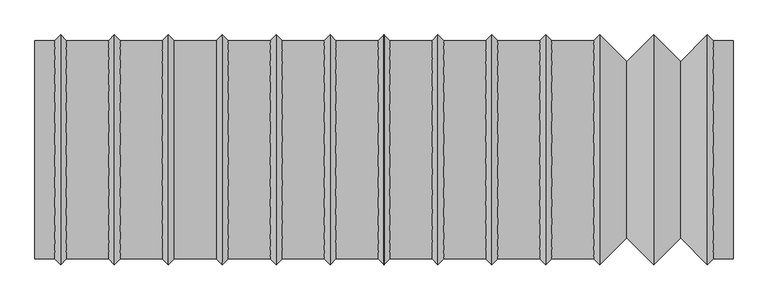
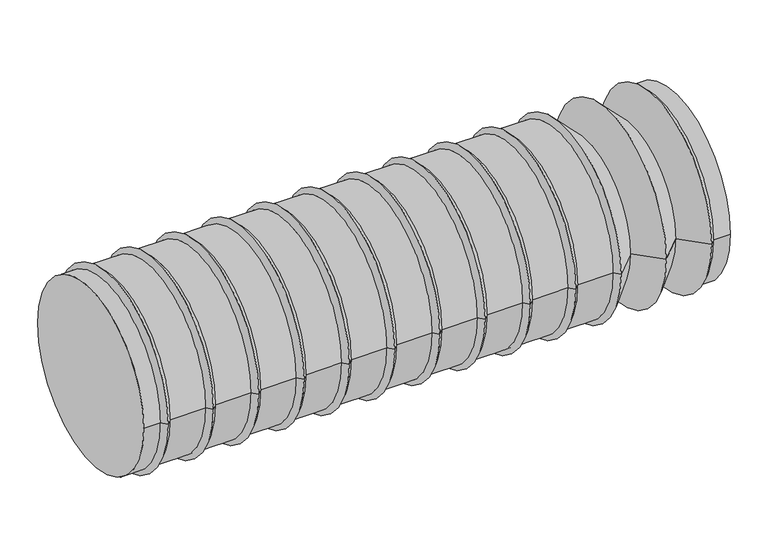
"""IFC4 building model written with IfcOpenShell, lengths in millimetres: proxy geometry, WIN.HB.2200x7090L-10."""

from ifc_helpers import new_model, si_unit, frame, origin, place, context, project, spatial, polyline, circle_curve, source, transform, mapped, element, save
from ifc_brep_helpers import plane_surface, cylinder_surface, revolved_surface, advanced_brep


def generic_models_1b11bcf1(model_context):
    return source(origin(), model_context, "Body", "AdvancedBrep", [
        advanced_brep(
        [(-6890.0, 1110.0, 0.0), (-7090.0, 1110.0, 0.0), (-7090.0, -1110.0, 0.0), (-6890.0, -1110.0, 0.0), (-6342.5, 1110.0, 0.0), (-6770.0, 1110.0, 0.0), (-6770.0, -1110.0, 0.0), (-6342.5, -1110.0, 0.0), (-4700.0, 1110.0, 0.0), (-5127.5, 1110.0, 0.0), (-5127.5, -1110.0, 0.0), (-4700.0, -1110.0, 0.0), (-4152.5, 1110.0, 0.0), (-4580.0, 1110.0, 0.0), (-4580.0, -1110.0, 0.0), (-4152.5, -1110.0, 0.0), (-3605.0, 1110.0, 0.0), (-4032.5, 1110.0, 0.0), (-4032.5, -1110.0, 0.0), (-3605.0, -1110.0, 0.0), (-2510.0, 1110.0, 0.0), (-2937.5, 1110.0, 0.0), (-2937.5, -1110.0, 0.0), (-2510.0, -1110.0, 0.0), (-1962.5, 1110.0, 0.0), (-2390.0, 1110.0, 0.0), (-2390.0, -1110.0, 0.0), (-1962.5, -1110.0, 0.0), (-1902.5, 1170.0, 0.0), (-1902.5, -1170.0, 0.0), (-2450.0, 1170.0, 0.0), (-2450.0, -1170.0, 0.0), (-3545.0, 1170.0, 0.0), (-3545.0, -1170.0, 0.0), (-4092.5, 1170.0, 0.0), (-4092.5, -1170.0, 0.0), (-4640.0, 1170.0, 0.0), (-4640.0, -1170.0, 0.0), (-5187.5, 1170.0, 0.0), (-5247.5, 1110.0, 0.0), (-5247.5, -1110.0, 0.0), (-5187.5, -1170.0, 0.0), (-6282.5, 1170.0, 0.0), (-6282.5, -1170.0, 0.0), (-6830.0, 1170.0, 0.0), (-6830.0, -1170.0, 0.0), (-5675.0, 1110.0, 0.0), (-5675.0, 1068.7059232, 299.9460781), (-5675.0, -1110.0, 0.0), (-6222.5, 1110.0, 0.0), (-6222.5, -1110.0, 0.0), (-3485.0, 1110.0, 0.0), (-3485.0, -1110.0, 0.0), (-1842.5, 1110.0, 0.0), (-1842.5, -1110.0, 0.0), (-2997.5, 1170.0, 0.0), (-2997.5, -1170.0, 0.0), (-3057.5, 1110.0, 0.0), (-3057.5, 1070.716645, 292.6873179), (-3057.5, -1110.0, 0.0), (-5735.0, 1170.0, 0.0), (-5735.0, 1134.7221867, 285.1412964), (-5735.0, -1170.0, 0.0), (-5795.0, 1110.0, 0.0), (-5795.0, -1110.0, 0.0), (-5795.0, 1078.3098609, 263.3397877), (-200.0, 1110.0, 0.0), (-260.0, 1170.0, 0.0), (-260.0, 1130.5161568, 301.3854993), (-260.0, -1170.0, 0.0), (-200.0, -1110.0, 0.0), (0.0, 1110.0, 0.0), (0.0, -1110.0, 0.0), (-1415.0, 1110.0, 0.0), (-1415.0, -1110.0, 0.0), (-1415.0, 1067.5746599, 303.9479323), (-1355.0, 1170.0, 0.0), (-1355.0, -1170.0, 0.0), (-1355.0, 1130.5161568, 301.3854993), (-1081.25, 896.25, 0.0), (-1081.25, -896.25, 0.0), (-533.75, 896.25, 0.0), (-807.5, 1170.0, 0.0), (-807.5, 1130.5161568, 301.3854993), (-807.5, -1170.0, 0.0), (-533.75, -896.25, 0.0), (-200.0, 1041.2881013, -384.472483), (-2997.5, 1112.7814782, -361.410268), (-2937.5, 1061.2762802, -325.2578316)],
        [
            (0, 1),
            (1, 2, circle_curve(frame((-7090.0, 0.0, 0.0), z_axis=(1.0, 0.0, 0.0), x_axis=(0.0, 1.0, 0.0)), 1110.0)),
            (2, 3),
            (3, 0, circle_curve(frame((-6890.0, 0.0, 0.0), z_axis=(-1.0, 0.0, 0.0), x_axis=(0.0, 1.0, 0.0)), 1110.0)),
            (4, 5),
            (5, 6, circle_curve(frame((-6770.0, 0.0, 0.0), z_axis=(1.0, 0.0, 0.0), x_axis=(0.0, 1.0, 0.0)), 1110.0)),
            (6, 7),
            (7, 4, circle_curve(frame((-6342.5, 0.0, 0.0), z_axis=(-1.0, 0.0, 0.0), x_axis=(0.0, 1.0, 0.0)), 1110.0)),
            (8, 9),
            (9, 10, circle_curve(frame((-5127.5, 0.0, 0.0), z_axis=(1.0, 0.0, 0.0), x_axis=(0.0, 1.0, 0.0)), 1110.0)),
            (10, 11),
            (11, 8, circle_curve(frame((-4700.0, 0.0, 0.0), z_axis=(-1.0, 0.0, 0.0), x_axis=(0.0, 1.0, 0.0)), 1110.0)),
            (12, 13),
            (13, 14, circle_curve(frame((-4580.0, 0.0, 0.0), z_axis=(1.0, 0.0, 0.0), x_axis=(0.0, 1.0, 0.0)), 1110.0)),
            (14, 15),
            (15, 12, circle_curve(frame((-4152.5, 0.0, 0.0), z_axis=(-1.0, 0.0, 0.0), x_axis=(0.0, 1.0, 0.0)), 1110.0)),
            (16, 17),
            (17, 18, circle_curve(frame((-4032.5, 0.0, 0.0), z_axis=(1.0, 0.0, 0.0), x_axis=(0.0, 1.0, 0.0)), 1110.0)),
            (18, 19),
            (19, 16, circle_curve(frame((-3605.0, 0.0, 0.0), z_axis=(-1.0, 0.0, 0.0), x_axis=(0.0, 1.0, 0.0)), 1110.0)),
            (20, 21),
            (21, 22, circle_curve(frame((-2937.5, 0.0, 0.0), z_axis=(1.0, 0.0, 0.0), x_axis=(0.0, 1.0, 0.0)), 1110.0)),
            (22, 23),
            (23, 20, circle_curve(frame((-2510.0, 0.0, 0.0), z_axis=(-1.0, 0.0, 0.0), x_axis=(0.0, 1.0, 0.0)), 1110.0)),
            (24, 25),
            (25, 26, circle_curve(frame((-2390.0, 0.0, 0.0), z_axis=(1.0, 0.0, 0.0), x_axis=(0.0, 1.0, 0.0)), 1110.0)),
            (26, 27),
            (27, 24, circle_curve(frame((-1962.5, 0.0, 0.0), z_axis=(-1.0, 0.0, 0.0), x_axis=(0.0, 1.0, 0.0)), 1110.0)),
            (28, 24),
            (27, 29),
            (29, 28, circle_curve(frame((-1902.5, 0.0, 0.0), z_axis=(-1.0, 0.0, 0.0), x_axis=(0.0, -1.0, 0.0)), 1170.0)),
            (30, 20),
            (23, 31),
            (31, 30, circle_curve(frame((-2450.0, 0.0, 0.0), z_axis=(-1.0, 0.0, 0.0), x_axis=(0.0, -1.0, 0.0)), 1170.0)),
            (32, 16),
            (19, 33),
            (33, 32, circle_curve(frame((-3545.0, 0.0, 0.0), z_axis=(-1.0, 0.0, 0.0), x_axis=(0.0, -1.0, 0.0)), 1170.0)),
            (34, 12),
            (15, 35),
            (35, 34, circle_curve(frame((-4092.5, 0.0, 0.0), z_axis=(-1.0, 0.0, 0.0), x_axis=(0.0, -1.0, 0.0)), 1170.0)),
            (36, 8),
            (11, 37),
            (37, 36, circle_curve(frame((-4640.0, 0.0, 0.0), z_axis=(-1.0, 0.0, 0.0), x_axis=(0.0, -1.0, 0.0)), 1170.0)),
            (38, 39),
            (39, 40, circle_curve(frame((-5247.5, 0.0, 0.0), z_axis=(1.0, 0.0, 0.0), x_axis=(0.0, -1.0, 0.0)), 1110.0)),
            (40, 41),
            (41, 38, circle_curve(frame((-5187.5, 0.0, 0.0), z_axis=(-1.0, 0.0, 0.0), x_axis=(0.0, -1.0, 0.0)), 1170.0)),
            (42, 4),
            (7, 43),
            (43, 42, circle_curve(frame((-6282.5, 0.0, 0.0), z_axis=(-1.0, 0.0, 0.0), x_axis=(0.0, -1.0, 0.0)), 1170.0)),
            (44, 0),
            (3, 45),
            (45, 44, circle_curve(frame((-6830.0, 0.0, 0.0), z_axis=(-1.0, 0.0, 0.0), x_axis=(0.0, -1.0, 0.0)), 1170.0)),
            (39, 46),
            (46, 47, circle_curve(frame((-5675.0, 0.0, 0.0), z_axis=(1.0, 0.0, 0.0), x_axis=(0.0, 1.0, 0.0)), 1110.0)),
            (47, 48, circle_curve(frame((-5675.0, 0.0, 0.0), z_axis=(1.0, 0.0, 0.0), x_axis=(0.0, 1.0, 0.0)), 1110.0)),
            (48, 40),
            (5, 44),
            (45, 6),
            (49, 42),
            (43, 50),
            (50, 49, circle_curve(frame((-6222.5, 0.0, 0.0), z_axis=(-1.0, 0.0, 0.0), x_axis=(0.0, -1.0, 0.0)), 1110.0)),
            (9, 38),
            (41, 10),
            (13, 36),
            (37, 14),
            (17, 34),
            (35, 18),
            (51, 32),
            (33, 52),
            (52, 51, circle_curve(frame((-3485.0, 0.0, 0.0), z_axis=(-1.0, 0.0, 0.0), x_axis=(0.0, -1.0, 0.0)), 1110.0)),
            (25, 30),
            (31, 26),
            (53, 28),
            (29, 54),
            (54, 53, circle_curve(frame((-1842.5, 0.0, 0.0), z_axis=(-1.0, 0.0, 0.0), x_axis=(0.0, -1.0, 0.0)), 1110.0)),
            (21, 55),
            (55, 56, circle_curve(frame((-2997.5, 0.0, 0.0), z_axis=(1.0, 0.0, 0.0), x_axis=(0.0, -1.0, 0.0)), 1170.0)),
            (56, 22),
            (55, 57),
            (57, 58, circle_curve(frame((-3057.5, 0.0, 0.0), z_axis=(1.0, 0.0, 0.0), x_axis=(0.0, -1.0, 0.0)), 1110.0)),
            (58, 59, circle_curve(frame((-3057.5, 0.0, 0.0), z_axis=(1.0, 0.0, 0.0), x_axis=(0.0, -1.0, 0.0)), 1110.0)),
            (59, 56),
            (57, 51),
            (52, 59),
            (46, 60),
            (60, 61, circle_curve(frame((-5735.0, 0.0, 0.0), z_axis=(1.0, 0.0, 0.0), x_axis=(0.0, -1.0, 0.0)), 1170.0)),
            (61, 62, circle_curve(frame((-5735.0, 0.0, 0.0), z_axis=(1.0, 0.0, 0.0), x_axis=(0.0, -1.0, 0.0)), 1170.0)),
            (62, 48),
            (63, 49),
            (50, 64),
            (64, 65, circle_curve(frame((-5795.0, 0.0, 0.0), z_axis=(-1.0, 0.0, 0.0), x_axis=(0.0, 1.0, 0.0)), 1110.0)),
            (65, 63, circle_curve(frame((-5795.0, 0.0, 0.0), z_axis=(-1.0, 0.0, 0.0), x_axis=(0.0, 1.0, 0.0)), 1110.0)),
            (60, 63),
            (64, 62),
            (66, 67),
            (67, 68, circle_curve(frame((-260.0, 0.0, 0.0), z_axis=(1.0, 0.0, 0.0), x_axis=(0.0, -1.0, 0.0)), 1170.0)),
            (68, 69, circle_curve(frame((-260.0, 0.0, 0.0), z_axis=(1.0, 0.0, 0.0), x_axis=(0.0, -1.0, 0.0)), 1170.0)),
            (69, 70),
            (70, 66, circle_curve(frame((-200.0, 0.0, 0.0), z_axis=(-1.0, 0.0, 0.0), x_axis=(0.0, -1.0, 0.0)), 1110.0)),
            (71, 66),
            (70, 72),
            (72, 71, circle_curve(frame((0.0, 0.0, 0.0), z_axis=(-1.0, 0.0, 0.0), x_axis=(0.0, 1.0, 0.0)), 1110.0)),
            (73, 53),
            (54, 74),
            (74, 75, circle_curve(frame((-1415.0, 0.0, 0.0), z_axis=(-1.0, 0.0, 0.0), x_axis=(0.0, 1.0, 0.0)), 1110.0)),
            (75, 73, circle_curve(frame((-1415.0, 0.0, 0.0), z_axis=(-1.0, 0.0, 0.0), x_axis=(0.0, 1.0, 0.0)), 1110.0)),
            (76, 73),
            (74, 77),
            (77, 78, circle_curve(frame((-1355.0, 0.0, 0.0), z_axis=(-1.0, 0.0, 0.0), x_axis=(0.0, -1.0, 0.0)), 1170.0)),
            (78, 76, circle_curve(frame((-1355.0, 0.0, 0.0), z_axis=(-1.0, 0.0, 0.0), x_axis=(0.0, -1.0, 0.0)), 1170.0)),
            (79, 76),
            (77, 80),
            (80, 79, circle_curve(frame((-1081.25, 0.0, 0.0), z_axis=(-1.0, 0.0, 0.0), x_axis=(0.0, -1.0, 0.0)), 896.25)),
            (81, 82),
            (82, 83, circle_curve(frame((-807.5, 0.0, 0.0), z_axis=(1.0, 0.0, 0.0), x_axis=(0.0, -1.0, 0.0)), 1170.0)),
            (83, 84, circle_curve(frame((-807.5, 0.0, 0.0), z_axis=(1.0, 0.0, 0.0), x_axis=(0.0, -1.0, 0.0)), 1170.0)),
            (84, 85),
            (85, 81, circle_curve(frame((-533.75, 0.0, 0.0), z_axis=(-1.0, 0.0, 0.0), x_axis=(0.0, -1.0, 0.0)), 896.25)),
            (82, 79),
            (80, 84),
            (67, 81),
            (85, 69),
            (67, 69, circle_curve(frame((-260.0, 0.0, 0.0), z_axis=(-1.0, 0.0, 0.0), x_axis=(0.0, 1.0, 0.0)), 1170.0)),
            (85, 81, circle_curve(frame((-533.75, 0.0, 0.0), z_axis=(1.0, 0.0, 0.0), x_axis=(0.0, 1.0, 0.0)), 896.25)),
            (82, 84, circle_curve(frame((-807.5, 0.0, 0.0), z_axis=(-1.0, 0.0, 0.0), x_axis=(0.0, 1.0, 0.0)), 1170.0)),
            (80, 79, circle_curve(frame((-1081.25, 0.0, 0.0), z_axis=(1.0, 0.0, 0.0), x_axis=(0.0, 1.0, 0.0)), 896.25)),
            (72, 71, circle_curve(frame((0.0, 0.0, 0.0), z_axis=(1.0, 0.0, 0.0), x_axis=(0.0, 1.0, 0.0)), 1110.0)),
            (1, 2, circle_curve(frame((-7090.0, 0.0, 0.0), z_axis=(-1.0, 0.0, 0.0), x_axis=(0.0, 1.0, 0.0)), 1110.0)),
            (77, 76, circle_curve(frame((-1355.0, 0.0, 0.0), z_axis=(1.0, 0.0, 0.0), x_axis=(0.0, 1.0, 0.0)), 1170.0)),
            (74, 73, circle_curve(frame((-1415.0, 0.0, 0.0), z_axis=(1.0, 0.0, 0.0), x_axis=(0.0, 1.0, 0.0)), 1110.0)),
            (54, 53, circle_curve(frame((-1842.5, 0.0, 0.0), z_axis=(1.0, 0.0, 0.0), x_axis=(0.0, 1.0, 0.0)), 1110.0)),
            (70, 86, circle_curve(frame((-200.0, 0.0, 0.0), z_axis=(1.0, 0.0, 0.0), x_axis=(0.0, 1.0, 0.0)), 1110.0)),
            (86, 66, circle_curve(frame((-200.0, 0.0, 0.0), z_axis=(1.0, 0.0, 0.0), x_axis=(0.0, 1.0, 0.0)), 1110.0)),
            (60, 62, circle_curve(frame((-5735.0, 0.0, 0.0), z_axis=(-1.0, 0.0, 0.0), x_axis=(0.0, 1.0, 0.0)), 1170.0)),
            (64, 63, circle_curve(frame((-5795.0, 0.0, 0.0), z_axis=(1.0, 0.0, 0.0), x_axis=(0.0, 1.0, 0.0)), 1110.0)),
            (50, 49, circle_curve(frame((-6222.5, 0.0, 0.0), z_axis=(1.0, 0.0, 0.0), x_axis=(0.0, 1.0, 0.0)), 1110.0)),
            (46, 48, circle_curve(frame((-5675.0, 0.0, 0.0), z_axis=(-1.0, 0.0, 0.0), x_axis=(0.0, 1.0, 0.0)), 1110.0)),
            (57, 59, circle_curve(frame((-3057.5, 0.0, 0.0), z_axis=(-1.0, 0.0, 0.0), x_axis=(0.0, 1.0, 0.0)), 1110.0)),
            (52, 51, circle_curve(frame((-3485.0, 0.0, 0.0), z_axis=(1.0, 0.0, 0.0), x_axis=(0.0, 1.0, 0.0)), 1110.0)),
            (55, 87, circle_curve(frame((-2997.5, 0.0, 0.0), z_axis=(-1.0, 0.0, 0.0), x_axis=(0.0, 1.0, 0.0)), 1170.0)),
            (87, 56, circle_curve(frame((-2997.5, 0.0, 0.0), z_axis=(-1.0, 0.0, 0.0), x_axis=(0.0, 1.0, 0.0)), 1170.0)),
            (21, 88, circle_curve(frame((-2937.5, 0.0, 0.0), z_axis=(-1.0, 0.0, 0.0), x_axis=(0.0, 1.0, 0.0)), 1110.0)),
            (88, 22, circle_curve(frame((-2937.5, 0.0, 0.0), z_axis=(-1.0, 0.0, 0.0), x_axis=(0.0, 1.0, 0.0)), 1110.0)),
            (29, 28, circle_curve(frame((-1902.5, 0.0, 0.0), z_axis=(1.0, 0.0, 0.0), x_axis=(0.0, 1.0, 0.0)), 1170.0)),
            (25, 26, circle_curve(frame((-2390.0, 0.0, 0.0), z_axis=(-1.0, 0.0, 0.0), x_axis=(0.0, 1.0, 0.0)), 1110.0)),
            (31, 30, circle_curve(frame((-2450.0, 0.0, 0.0), z_axis=(1.0, 0.0, 0.0), x_axis=(0.0, 1.0, 0.0)), 1170.0)),
            (33, 32, circle_curve(frame((-3545.0, 0.0, 0.0), z_axis=(1.0, 0.0, 0.0), x_axis=(0.0, 1.0, 0.0)), 1170.0)),
            (17, 18, circle_curve(frame((-4032.5, 0.0, 0.0), z_axis=(-1.0, 0.0, 0.0), x_axis=(0.0, 1.0, 0.0)), 1110.0)),
            (35, 34, circle_curve(frame((-4092.5, 0.0, 0.0), z_axis=(1.0, 0.0, 0.0), x_axis=(0.0, 1.0, 0.0)), 1170.0)),
            (13, 14, circle_curve(frame((-4580.0, 0.0, 0.0), z_axis=(-1.0, 0.0, 0.0), x_axis=(0.0, 1.0, 0.0)), 1110.0)),
            (37, 36, circle_curve(frame((-4640.0, 0.0, 0.0), z_axis=(1.0, 0.0, 0.0), x_axis=(0.0, 1.0, 0.0)), 1170.0)),
            (9, 10, circle_curve(frame((-5127.5, 0.0, 0.0), z_axis=(-1.0, 0.0, 0.0), x_axis=(0.0, 1.0, 0.0)), 1110.0)),
            (41, 38, circle_curve(frame((-5187.5, 0.0, 0.0), z_axis=(1.0, 0.0, 0.0), x_axis=(0.0, 1.0, 0.0)), 1170.0)),
            (43, 42, circle_curve(frame((-6282.5, 0.0, 0.0), z_axis=(1.0, 0.0, 0.0), x_axis=(0.0, 1.0, 0.0)), 1170.0)),
            (5, 6, circle_curve(frame((-6770.0, 0.0, 0.0), z_axis=(-1.0, 0.0, 0.0), x_axis=(0.0, 1.0, 0.0)), 1110.0)),
            (45, 44, circle_curve(frame((-6830.0, 0.0, 0.0), z_axis=(1.0, 0.0, 0.0), x_axis=(0.0, 1.0, 0.0)), 1170.0)),
            (39, 40, circle_curve(frame((-5247.5, 0.0, 0.0), z_axis=(-1.0, 0.0, 0.0), x_axis=(0.0, 1.0, 0.0)), 1110.0)),
            (3, 0, circle_curve(frame((-6890.0, 0.0, 0.0), z_axis=(1.0, 0.0, 0.0), x_axis=(0.0, 1.0, 0.0)), 1110.0)),
            (7, 4, circle_curve(frame((-6342.5, 0.0, 0.0), z_axis=(1.0, 0.0, 0.0), x_axis=(0.0, 1.0, 0.0)), 1110.0)),
            (11, 8, circle_curve(frame((-4700.0, 0.0, 0.0), z_axis=(1.0, 0.0, 0.0), x_axis=(0.0, 1.0, 0.0)), 1110.0)),
            (15, 12, circle_curve(frame((-4152.5, 0.0, 0.0), z_axis=(1.0, 0.0, 0.0), x_axis=(0.0, 1.0, 0.0)), 1110.0)),
            (19, 16, circle_curve(frame((-3605.0, 0.0, 0.0), z_axis=(1.0, 0.0, 0.0), x_axis=(0.0, 1.0, 0.0)), 1110.0)),
            (23, 20, circle_curve(frame((-2510.0, 0.0, 0.0), z_axis=(1.0, 0.0, 0.0), x_axis=(0.0, 1.0, 0.0)), 1110.0)),
            (27, 24, circle_curve(frame((-1962.5, 0.0, 0.0), z_axis=(1.0, 0.0, 0.0), x_axis=(0.0, 1.0, 0.0)), 1110.0)),
        ],
        [
            cylinder_surface(frame((-3545.0, 0.0, 0.0), z_axis=(-1.0, 0.0, 0.0), x_axis=(0.0, 1.0, 0.0)), 1110.0),
            revolved_surface(polyline([(-1962.5, 1110.0, 0.0), (-1902.5, 1170.0, 0.0)]), (-3072.5, 0.0, 0.0), (1.0, 0.0, 0.0)),
            revolved_surface(polyline([(-2510.0, 1110.0, 0.0), (-2450.0, 1170.0, 0.0)]), (-3620.0, 0.0, 0.0), (1.0, 0.0, 0.0)),
            revolved_surface(polyline([(-3605.0, 1110.0, 0.0), (-3545.0, 1170.0, 0.0)]), (-4715.0, 0.0, 0.0), (1.0, 0.0, 0.0)),
            revolved_surface(polyline([(-4152.5, 1110.0, 0.0), (-4092.5, 1170.0, 0.0)]), (-5262.5, 0.0, 0.0), (1.0, 0.0, 0.0)),
            revolved_surface(polyline([(-4700.0, 1110.0, 0.0), (-4640.0, 1170.0, 0.0)]), (-5810.0, 0.0, 0.0), (1.0, 0.0, 0.0)),
            revolved_surface(polyline([(-5247.5, 1110.0, 0.0), (-5187.5, 1170.0, 0.0)]), (-6357.5, 0.0, 0.0), (1.0, 0.0, 0.0)),
            revolved_surface(polyline([(-6342.5, 1110.0, 0.0), (-6282.5, 1170.0, 0.0)]), (-7452.5, 0.0, 0.0), (1.0, 0.0, 0.0)),
            revolved_surface(polyline([(-6890.0, 1110.0, 0.0), (-6830.0, 1170.0, 0.0)]), (-8000.0, 0.0, 0.0), (1.0, 0.0, 0.0)),
            revolved_surface(polyline([(-6770.0, 1110.0, 0.0), (-6830.0, 1170.0, 0.0)]), (-5660.0, 0.0, 0.0), (-1.0, 0.0, 0.0)),
            revolved_surface(polyline([(-6222.5, 1110.0, 0.0), (-6282.5, 1170.0, 0.0)]), (-5112.5, 0.0, 0.0), (-1.0, 0.0, 0.0)),
            revolved_surface(polyline([(-5127.5, 1110.0, 0.0), (-5187.5, 1170.0, 0.0)]), (-4017.5, 0.0, 0.0), (-1.0, 0.0, 0.0)),
            revolved_surface(polyline([(-4580.0, 1110.0, 0.0), (-4640.0, 1170.0, 0.0)]), (-3470.0, 0.0, 0.0), (-1.0, 0.0, 0.0)),
            revolved_surface(polyline([(-4032.5, 1110.0, 0.0), (-4092.5, 1170.0, 0.0)]), (-2922.5, 0.0, 0.0), (-1.0, 0.0, 0.0)),
            revolved_surface(polyline([(-3485.0, 1110.0, 0.0), (-3545.0, 1170.0, 0.0)]), (-2375.0, 0.0, 0.0), (-1.0, 0.0, 0.0)),
            revolved_surface(polyline([(-2390.0, 1110.0, 0.0), (-2450.0, 1170.0, 0.0)]), (-1280.0, 0.0, 0.0), (-1.0, 0.0, 0.0)),
            revolved_surface(polyline([(-1842.5, 1110.0, 0.0), (-1902.5, 1170.0, 0.0)]), (-732.5, 0.0, 0.0), (-1.0, 0.0, 0.0)),
            revolved_surface(polyline([(-2937.5, 1110.0, 0.0), (-2997.5, 1170.0, 0.0)]), (-1827.5, 0.0, 0.0), (-1.0, 0.0, 0.0)),
            revolved_surface(polyline([(-3057.5, 1110.0, 0.0), (-2997.5, 1170.0, 0.0)]), (-4167.5, 0.0, 0.0), (1.0, 0.0, 0.0)),
            revolved_surface(polyline([(-5675.0, 1110.0, 0.0), (-5735.0, 1170.0, 0.0)]), (-4565.0, 0.0, 0.0), (-1.0, 0.0, 0.0)),
            revolved_surface(polyline([(-5795.0, 1110.0, 0.0), (-5735.0, 1170.0, 0.0)]), (-6905.0, 0.0, 0.0), (1.0, 0.0, 0.0)),
            revolved_surface(polyline([(-200.0, 1110.0, 0.0), (-260.0, 1170.0, 0.0)]), (910.0, 0.0, 0.0), (-1.0, 0.0, 0.0)),
            revolved_surface(polyline([(-1415.0, 1110.0, 0.0), (-1355.0, 1170.0, 0.0)]), (-2525.0, 0.0, 0.0), (1.0, 0.0, 0.0)),
            revolved_surface(polyline([(-1081.25, 896.2500000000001, 0.0), (-1355.0, 1170.0, 0.0)]), (-185.0, 0.0, 0.0), (-1.0, 0.0, 0.0)),
            revolved_surface(polyline([(-533.7500000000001, 896.2500000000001, 0.0), (-807.5, 1170.0, 0.0)]), (362.5, 0.0, 0.0), (-1.0, 0.0, 0.0)),
            revolved_surface(polyline([(-1081.25, 896.2500000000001, 0.0), (-807.5, 1170.0, 0.0)]), (-1977.5, 0.0, 0.0), (1.0, 0.0, 0.0)),
            revolved_surface(polyline([(-533.7499999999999, 896.2500000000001, 0.0), (-260.0, 1170.0, 0.0)]), (-1430.0, 0.0, 0.0), (1.0, 0.0, 0.0)),
            plane_surface(frame((0.0, 1110.0, 0.0), z_axis=(1.0, 0.0, 0.0), x_axis=(0.0, 0.0, -1.0))),
            plane_surface(frame((-7090.0, 1100.0, 0.0), z_axis=(-1.0, 0.0, 0.0), x_axis=(0.0, 0.0, 1.0))),
        ],
        [
            (0, [[1, 2, 3, 4]]),
            (0, [[5, 6, 7, 8]]),
            (0, [[9, 10, 11, 12]]),
            (0, [[13, 14, 15, 16]]),
            (0, [[17, 18, 19, 20]]),
            (0, [[21, 22, 23, 24]]),
            (0, [[25, 26, 27, 28]]),
            (1, [[29, -28, 30, 31]]),
            (2, [[32, -24, 33, 34]]),
            (3, [[35, -20, 36, 37]]),
            (4, [[38, -16, 39, 40]]),
            (5, [[41, -12, 42, 43]]),
            (6, [[44, 45, 46, 47]]),
            (7, [[48, -8, 49, 50]]),
            (8, [[51, -4, 52, 53]]),
            (0, [[54, 55, 56, 57, -45]]),
            (9, [[58, -53, 59, -6]]),
            (10, [[60, -50, 61, 62]]),
            (11, [[63, -47, 64, -10]]),
            (12, [[65, -43, 66, -14]]),
            (13, [[67, -40, 68, -18]]),
            (14, [[69, -37, 70, 71]]),
            (15, [[72, -34, 73, -26]]),
            (16, [[74, -31, 75, 76]]),
            (17, [[77, 78, 79, -22]]),
            (18, [[80, 81, 82, 83, -78]]),
            (0, [[84, -71, 85, -82, -81]]),
            (19, [[86, 87, 88, 89, -56, -55]]),
            (0, [[90, -62, 91, 92, 93]]),
            (20, [[94, -93, -92, 95, -88, -87]]),
            (21, [[96, 97, 98, 99, 100]]),
            (0, [[101, -100, 102, 103]]),
            (0, [[104, -76, 105, 106, 107]]),
            (22, [[108, -107, -106, 109, 110, 111]]),
            (23, [[112, -111, -110, 113, 114]]),
            (24, [[115, 116, 117, 118, 119]]),
            (25, [[120, -114, 121, -117, -116]]),
            (26, [[122, -119, 123, -98, -97]]),
            (26, [[-122, 124, -123, 125]]),
            (25, [[-120, 126, -121, 127]]),
            (27, [[128, -103]]),
            (28, [[129, -2]]),
            (24, [[-115, -125, -118, -126]]),
            (23, [[-112, -127, -113, 130]]),
            (22, [[-108, -130, -109, 131]]),
            (0, [[-104, -131, -105, 132]]),
            (0, [[-101, -128, -102, 133, 134]]),
            (21, [[-96, -134, -133, -99, -124]]),
            (20, [[-94, 135, -95, 136]]),
            (0, [[-90, -136, -91, 137]]),
            (19, [[-86, 138, -89, -135]]),
            (0, [[-84, 139, -85, 140]]),
            (18, [[-80, 141, 142, -83, -139]]),
            (17, [[-77, 143, 144, -79, -142, -141]]),
            (16, [[-74, -132, -75, 145]]),
            (15, [[-72, 146, -73, 147]]),
            (14, [[-69, -140, -70, 148]]),
            (13, [[-67, 149, -68, 150]]),
            (12, [[-65, 151, -66, 152]]),
            (11, [[-63, 153, -64, 154]]),
            (10, [[-60, -137, -61, 155]]),
            (9, [[-58, 156, -59, 157]]),
            (0, [[-54, 158, -57, -138]]),
            (8, [[-51, -157, -52, 159]]),
            (7, [[-48, -155, -49, 160]]),
            (6, [[-44, -154, -46, -158]]),
            (5, [[-41, -152, -42, 161]]),
            (4, [[-38, -150, -39, 162]]),
            (3, [[-35, -148, -36, 163]]),
            (2, [[-32, -147, -33, 164]]),
            (1, [[-29, -145, -30, 165]]),
            (0, [[-25, -165, -27, -146]]),
            (0, [[-21, -164, -23, -144, -143]]),
            (0, [[-17, -163, -19, -149]]),
            (0, [[-13, -162, -15, -151]]),
            (0, [[-9, -161, -11, -153]]),
            (0, [[-5, -160, -7, -156]]),
            (0, [[-1, -159, -3, -129]]),
        ],
    ),
    ])


if __name__ == "__main__":
    model = new_model("IFC4")
    model_context = context("Model", 3, world=origin())
    ifc_project = project(units=[si_unit("LENGTHUNIT", "METRE", prefix="MILLI")], contexts=[model_context])
    site = spatial("IfcSite", under=ifc_project)
    building = spatial("IfcBuilding", under=site)
    placement = place(None, origin())
    generic_models_shape = generic_models_1b11bcf1(model_context)
    element("IfcBuildingElementProxy", 1, Name="WIN.HB.2200x7090L-10", ObjectType="WIN.HB.2200x7090L-10", at=placement, inside=building, context=model_context, shape_type="MappedRepresentation", body=[
        mapped(generic_models_shape, transform((0.0, 0.0, 0.0), x_axis=(1.0, 0.0, 0.0), y_axis=(0.0, 1.0, 0.0), z_axis=(0.0, 0.0, 1.0))),
    ])
    save(model, "model.ifc")
